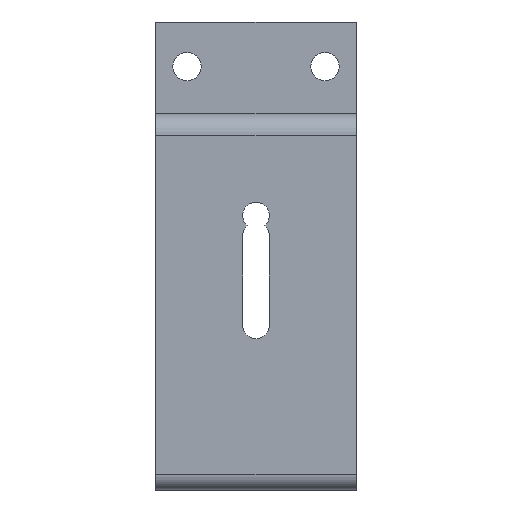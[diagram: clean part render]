
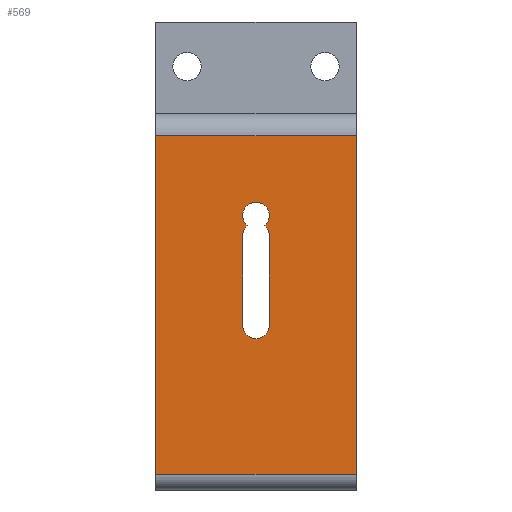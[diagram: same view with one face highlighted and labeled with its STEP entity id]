
A CAD part, front view. The second image highlights one B-rep face of the part: STEP entity #569.
In plain terms, the highlighted planar face has unit normal (0, -1, 0).
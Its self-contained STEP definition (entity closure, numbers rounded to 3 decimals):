
#15 = VECTOR ( 'NONE', #447, 1000. ) ;
#18 = AXIS2_PLACEMENT_3D ( 'NONE', #432, #428, #1477 ) ;
#22 = VERTEX_POINT ( 'NONE', #511 ) ;
#42 = EDGE_CURVE ( 'NONE', #1471, #774, #1181, .T. ) ;
#48 = AXIS2_PLACEMENT_3D ( 'NONE', #1136, #1367, #307 ) ;
#56 = ORIENTED_EDGE ( 'NONE', *, *, #325, .F. ) ;
#67 = DIRECTION ( 'NONE',  ( 0., 0., -1. ) ) ;
#75 = ORIENTED_EDGE ( 'NONE', *, *, #749, .F. ) ;
#78 = CARTESIAN_POINT ( 'NONE',  ( 42., 0., 81.069 ) ) ;
#89 = LINE ( 'NONE', #1311, #328 ) ;
#112 = CARTESIAN_POINT ( 'NONE',  ( 37.75, 0., 81.069 ) ) ;
#128 = LINE ( 'NONE', #192, #864 ) ;
#139 = ORIENTED_EDGE ( 'NONE', *, *, #565, .F. ) ;
#172 = CARTESIAN_POINT ( 'NONE',  ( 46.25, 0., 52.5 ) ) ;
#173 = CARTESIAN_POINT ( 'NONE',  ( 42., 0., 52.5 ) ) ;
#192 = CARTESIAN_POINT ( 'NONE',  ( 10., 0., 112.952 ) ) ;
#207 = DIRECTION ( 'NONE',  ( 0., 0., -1. ) ) ;
#228 = VERTEX_POINT ( 'NONE', #1330 ) ;
#231 = LINE ( 'NONE', #680, #15 ) ;
#277 = ORIENTED_EDGE ( 'NONE', *, *, #531, .F. ) ;
#292 = CARTESIAN_POINT ( 'NONE',  ( 44.779, 0., 84.284 ) ) ;
#299 = CIRCLE ( 'NONE', #1461, 4.25 ) ;
#307 = DIRECTION ( 'NONE',  ( 0., 0., -1. ) ) ;
#323 = AXIS2_PLACEMENT_3D ( 'NONE', #852, #1051, #1495 ) ;
#325 = EDGE_CURVE ( 'NONE', #1016, #412, #1064, .T. ) ;
#328 = VECTOR ( 'NONE', #1204, 1000. ) ;
#412 = VERTEX_POINT ( 'NONE', #1153 ) ;
#428 = DIRECTION ( 'NONE',  ( 0., -1., 0. ) ) ;
#432 = CARTESIAN_POINT ( 'NONE',  ( 42., 0., 81.069 ) ) ;
#444 = DIRECTION ( 'NONE',  ( 0., 0., -1. ) ) ;
#447 = DIRECTION ( 'NONE',  ( 1., 0., 0. ) ) ;
#452 = VERTEX_POINT ( 'NONE', #1178 ) ;
#479 = FACE_BOUND ( 'NONE', #820, .T. ) ;
#480 = EDGE_CURVE ( 'NONE', #452, #924, #128, .T. ) ;
#485 = VERTEX_POINT ( 'NONE', #292 ) ;
#501 = AXIS2_PLACEMENT_3D ( 'NONE', #173, #1011, #67 ) ;
#511 = CARTESIAN_POINT ( 'NONE',  ( 46.25, 0., 81.069 ) ) ;
#531 = EDGE_CURVE ( 'NONE', #1395, #1471, #792, .T. ) ;
#559 = AXIS2_PLACEMENT_3D ( 'NONE', #78, #906, #207 ) ;
#565 = EDGE_CURVE ( 'NONE', #22, #485, #758, .T. ) ;
#568 = CARTESIAN_POINT ( 'NONE',  ( 42., 0., 87.5 ) ) ;
#569 = ADVANCED_FACE ( 'NONE', ( #479, #897 ), #1021, .T. ) ;
#586 = CARTESIAN_POINT ( 'NONE',  ( 74., 0., 112.952 ) ) ;
#612 = ORIENTED_EDGE ( 'NONE', *, *, #699, .F. ) ;
#651 = CARTESIAN_POINT ( 'NONE',  ( 37.75, 0., 52.5 ) ) ;
#654 = LINE ( 'NONE', #112, #891 ) ;
#676 = EDGE_CURVE ( 'NONE', #412, #1395, #654, .T. ) ;
#680 = CARTESIAN_POINT ( 'NONE',  ( 10., 0., 112.952 ) ) ;
#699 = EDGE_CURVE ( 'NONE', #870, #228, #1093, .T. ) ;
#721 = EDGE_CURVE ( 'NONE', #452, #870, #231, .T. ) ;
#749 = EDGE_CURVE ( 'NONE', #485, #1016, #299, .T. ) ;
#758 = CIRCLE ( 'NONE', #18, 4.25 ) ;
#774 = VERTEX_POINT ( 'NONE', #802 ) ;
#778 = VECTOR ( 'NONE', #1116, 1000. ) ;
#784 = VECTOR ( 'NONE', #444, 1000. ) ;
#792 = CIRCLE ( 'NONE', #501, 4.25 ) ;
#802 = CARTESIAN_POINT ( 'NONE',  ( 46.25, 0., 52.5 ) ) ;
#809 = DIRECTION ( 'NONE',  ( 0., 0., -1. ) ) ;
#820 = EDGE_LOOP ( 'NONE', ( #75, #139, #1438, #1266, #277, #1481, #56 ) ) ;
#852 = CARTESIAN_POINT ( 'NONE',  ( 42., 0., 52.5 ) ) ;
#864 = VECTOR ( 'NONE', #1015, 1000. ) ;
#870 = VERTEX_POINT ( 'NONE', #586 ) ;
#891 = VECTOR ( 'NONE', #809, 1000. ) ;
#897 = FACE_OUTER_BOUND ( 'NONE', #1110, .T. ) ;
#906 = DIRECTION ( 'NONE',  ( 0., -1., 0. ) ) ;
#924 = VERTEX_POINT ( 'NONE', #1199 ) ;
#996 = EDGE_CURVE ( 'NONE', #924, #228, #89, .T. ) ;
#1011 = DIRECTION ( 'NONE',  ( 0., -1., 0. ) ) ;
#1015 = DIRECTION ( 'NONE',  ( 0., 0., -1. ) ) ;
#1016 = VERTEX_POINT ( 'NONE', #1432 ) ;
#1021 = PLANE ( 'NONE',  #48 ) ;
#1029 = CARTESIAN_POINT ( 'NONE',  ( 74., 0., 112.952 ) ) ;
#1051 = DIRECTION ( 'NONE',  ( 0., -1., 0. ) ) ;
#1064 = CIRCLE ( 'NONE', #559, 4.25 ) ;
#1065 = ORIENTED_EDGE ( 'NONE', *, *, #480, .T. ) ;
#1093 = LINE ( 'NONE', #1029, #784 ) ;
#1110 = EDGE_LOOP ( 'NONE', ( #1065, #1111, #612, #1180 ) ) ;
#1111 = ORIENTED_EDGE ( 'NONE', *, *, #996, .T. ) ;
#1116 = DIRECTION ( 'NONE',  ( 0., 0., 1. ) ) ;
#1136 = CARTESIAN_POINT ( 'NONE',  ( 10., 0., 112.952 ) ) ;
#1153 = CARTESIAN_POINT ( 'NONE',  ( 37.75, 0., 81.069 ) ) ;
#1178 = CARTESIAN_POINT ( 'NONE',  ( 10., 0., 112.952 ) ) ;
#1180 = ORIENTED_EDGE ( 'NONE', *, *, #721, .F. ) ;
#1181 = CIRCLE ( 'NONE', #323, 4.25 ) ;
#1188 = CARTESIAN_POINT ( 'NONE',  ( 42., 0., 48.25 ) ) ;
#1199 = CARTESIAN_POINT ( 'NONE',  ( 10., 0., 5. ) ) ;
#1204 = DIRECTION ( 'NONE',  ( 1., 0., 0. ) ) ;
#1253 = DIRECTION ( 'NONE',  ( 0., 0., -1. ) ) ;
#1266 = ORIENTED_EDGE ( 'NONE', *, *, #42, .F. ) ;
#1278 = LINE ( 'NONE', #172, #778 ) ;
#1311 = CARTESIAN_POINT ( 'NONE',  ( 10., 0., 5. ) ) ;
#1328 = EDGE_CURVE ( 'NONE', #774, #22, #1278, .T. ) ;
#1330 = CARTESIAN_POINT ( 'NONE',  ( 74., 0., 5. ) ) ;
#1367 = DIRECTION ( 'NONE',  ( 0., -1., 0. ) ) ;
#1370 = DIRECTION ( 'NONE',  ( 0., -1., 0. ) ) ;
#1395 = VERTEX_POINT ( 'NONE', #651 ) ;
#1432 = CARTESIAN_POINT ( 'NONE',  ( 39.221, 0., 84.284 ) ) ;
#1438 = ORIENTED_EDGE ( 'NONE', *, *, #1328, .F. ) ;
#1461 = AXIS2_PLACEMENT_3D ( 'NONE', #568, #1370, #1253 ) ;
#1471 = VERTEX_POINT ( 'NONE', #1188 ) ;
#1477 = DIRECTION ( 'NONE',  ( 0., 0., -1. ) ) ;
#1481 = ORIENTED_EDGE ( 'NONE', *, *, #676, .F. ) ;
#1495 = DIRECTION ( 'NONE',  ( 0., 0., -1. ) ) ;
